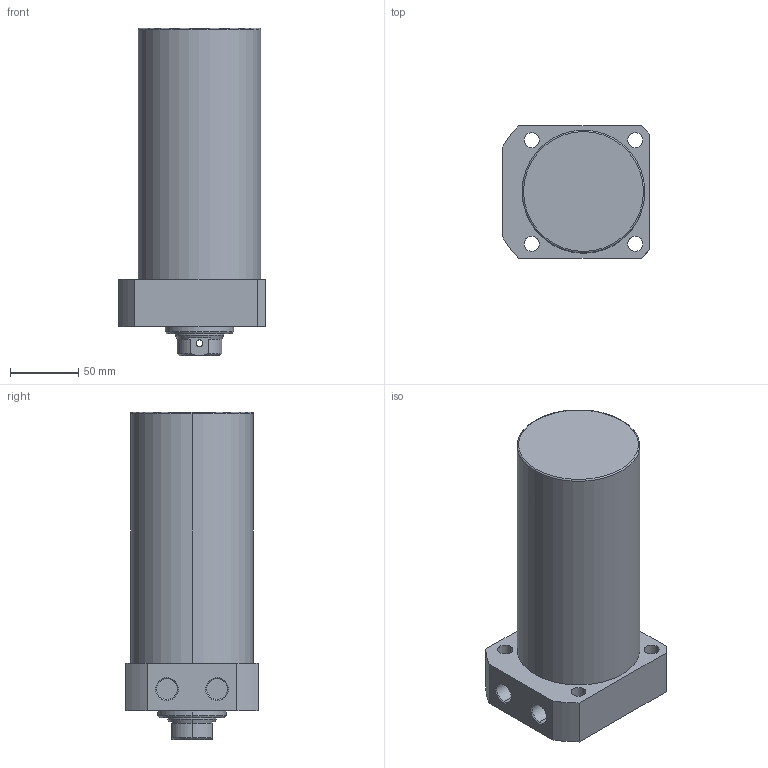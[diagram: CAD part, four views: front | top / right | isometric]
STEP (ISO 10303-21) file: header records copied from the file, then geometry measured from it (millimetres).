
FILE_DESCRIPTION (( 'STEP AP203' ), '1' );
FILE_NAME ('CLLR-090CB-140.STEP', '2019-12-18T06:20:26', ( '' ), ( '' ), 'SwSTEP 2.0', 'SolidWorks 2015', '' );
FILE_SCHEMA (( 'CONFIG_CONTROL_DESIGN' ));
Length unit declared in the file: millimetre
Products named in the file (1): CLLR-090CB-140
Bounding box: 108 x 97 x 240 mm (x, y, z)
Volume: 1519213.9 mm3; surface area: 97235.3 mm2
Topology: 1 solids, 1 shells, 69 faces, 163 edges, 102 vertices
Faces by surface type: cylinder 33, plane 19, cone 15, torus 2
Entity records: 2229 total; most frequent: CARTESIAN_POINT 497, DIRECTION 370, ORIENTED_EDGE 322, EDGE_CURVE 161, AXIS2_PLACEMENT_3D 151, VERTEX_POINT 102, EDGE_LOOP 89, CIRCLE 81
